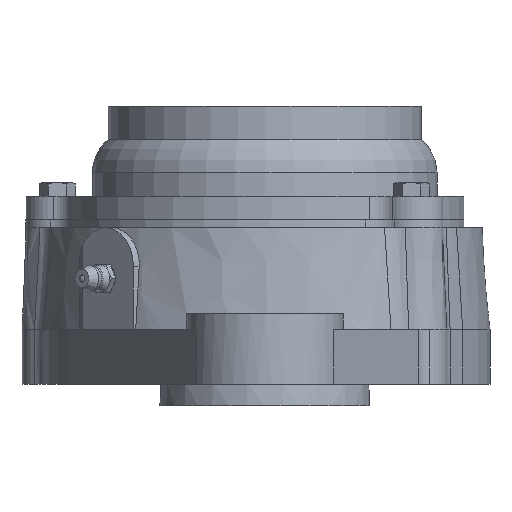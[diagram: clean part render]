
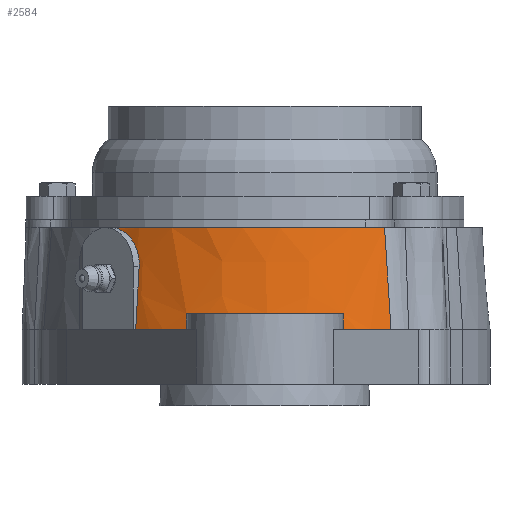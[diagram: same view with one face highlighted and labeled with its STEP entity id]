
A CAD part, left-side view. The second image highlights one B-rep face of the part: STEP entity #2584.
In plain terms, the highlighted free-form (B-spline) face has degree [3, 3] with [7, 4] control points.
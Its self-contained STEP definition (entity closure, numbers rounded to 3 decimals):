
#2420=CARTESIAN_POINT('',(-46.321,-30.571,18.));
#2421=VERTEX_POINT('',#2420);
#2432=CARTESIAN_POINT('',(-47.623,-32.222,-8.));
#2433=VERTEX_POINT('',#2432);
#2434=CARTESIAN_POINT('',(-46.321,-30.571,18.));
#2435=CARTESIAN_POINT('',(-46.763,-31.113,9.333));
#2436=CARTESIAN_POINT('',(-47.197,-31.663,0.666));
#2437=CARTESIAN_POINT('',(-47.623,-32.222,-8.));
#2438=B_SPLINE_CURVE_WITH_KNOTS('',3,(#2434,#2435,#2436,#2437),.UNSPECIFIED.,.F.,.U.,(4,4),(-2.609,0.),.UNSPECIFIED.);
#2439=EDGE_CURVE('',#2421,#2433,#2438,.T.);
#2463=CARTESIAN_POINT('',(-40.664,40.653,-8.));
#2464=CARTESIAN_POINT('',(-43.336,37.981,-8.));
#2465=CARTESIAN_POINT('',(-50.565,29.175,-8.0));
#2466=CARTESIAN_POINT('',(-57.907,11.366,-8.));
#2467=CARTESIAN_POINT('',(-57.827,-11.755,-8.0));
#2468=CARTESIAN_POINT('',(-51.859,-25.963,-8.));
#2469=CARTESIAN_POINT('',(-47.623,-32.222,-8.));
#2470=CARTESIAN_POINT('',(-40.187,40.187,0.667));
#2471=CARTESIAN_POINT('',(-42.829,37.545,0.667));
#2472=CARTESIAN_POINT('',(-49.978,28.839,0.667));
#2473=CARTESIAN_POINT('',(-57.238,11.23,0.667));
#2474=CARTESIAN_POINT('',(-57.155,-11.63,0.667));
#2475=CARTESIAN_POINT('',(-51.25,-25.677,0.667));
#2476=CARTESIAN_POINT('',(-47.061,-31.864,0.667));
#2477=CARTESIAN_POINT('',(-39.711,39.721,9.333));
#2478=CARTESIAN_POINT('',(-42.323,37.11,9.333));
#2479=CARTESIAN_POINT('',(-49.391,28.503,9.333));
#2480=CARTESIAN_POINT('',(-56.568,11.095,9.333));
#2481=CARTESIAN_POINT('',(-56.483,-11.506,9.333));
#2482=CARTESIAN_POINT('',(-50.642,-25.391,9.333));
#2483=CARTESIAN_POINT('',(-46.498,-31.506,9.333));
#2484=CARTESIAN_POINT('',(-39.234,39.255,18.0));
#2485=CARTESIAN_POINT('',(-41.816,36.674,18.0));
#2486=CARTESIAN_POINT('',(-48.804,28.168,18.));
#2487=CARTESIAN_POINT('',(-55.899,10.959,18.));
#2488=CARTESIAN_POINT('',(-55.812,-11.381,18.));
#2489=CARTESIAN_POINT('',(-50.033,-25.105,18.0));
#2490=CARTESIAN_POINT('',(-45.935,-31.149,18.0));
#2491=B_SPLINE_SURFACE_WITH_KNOTS('',3,3,((#2463,#2470,#2477,#2484),(#2464,#2471,#2478,#2485),(#2465,#2472,#2479,#2486),(#2466,#2473,#2480,#2487),(#2467,#2474,#2481,#2488),(#2468,#2475,#2482,#2489),(#2469,#2476,#2483,#2490)),.UNSPECIFIED.,.F.,.F.,.F.,(4,1,1,1,4),(4,4),(0.311,0.406,0.596,0.786,0.976),(0.0,1.0),.UNSPECIFIED.);
#2492=ORIENTED_EDGE('',*,*,#2439,.F.);
#2493=CARTESIAN_POINT('',(-39.244,39.244,18.0));
#2494=VERTEX_POINT('',#2493);
#2495=CARTESIAN_POINT('',(0.0,0.0,18.0));
#2496=DIRECTION('',(0.0,0.0,1.0));
#2497=DIRECTION('',(0.14,-0.99,0.0));
#2498=AXIS2_PLACEMENT_3D('',#2495,#2496,#2497);
#2499=CIRCLE('',#2498,55.5);
#2500=EDGE_CURVE('',#2494,#2421,#2499,.T.);
#2501=ORIENTED_EDGE('',*,*,#2500,.F.);
#2502=CARTESIAN_POINT('',(-46.226,32.084,8.));
#2503=VERTEX_POINT('',#2502);
#2504=CARTESIAN_POINT('',(-39.244,39.244,18.0));
#2505=CARTESIAN_POINT('',(-39.402,39.086,18.));
#2506=CARTESIAN_POINT('',(-39.56,38.928,17.993));
#2507=CARTESIAN_POINT('',(-39.989,38.493,17.951));
#2508=CARTESIAN_POINT('',(-40.259,38.216,17.903));
#2509=CARTESIAN_POINT('',(-41.033,37.412,17.695));
#2510=CARTESIAN_POINT('',(-41.524,36.891,17.478));
#2511=CARTESIAN_POINT('',(-42.77,35.546,16.687));
#2512=CARTESIAN_POINT('',(-43.469,34.767,15.981));
#2513=CARTESIAN_POINT('',(-44.683,33.424,14.188));
#2514=CARTESIAN_POINT('',(-45.18,32.882,13.105));
#2515=CARTESIAN_POINT('',(-45.912,32.174,10.708));
#2516=CARTESIAN_POINT('',(-46.138,32.019,9.42));
#2517=CARTESIAN_POINT('',(-46.222,32.08,8.078));
#2518=CARTESIAN_POINT('',(-46.224,32.082,8.039));
#2519=CARTESIAN_POINT('',(-46.226,32.084,8.));
#2520=B_SPLINE_CURVE_WITH_KNOTS('',3,(#2504,#2505,#2506,#2507,#2508,#2509,#2510,#2511,#2512,#2513,#2514,#2515,#2516,#2517,#2518,#2519),.UNSPECIFIED.,.F.,.U.,(4,2,2,2,2,2,2,4),(0.0,0.067,0.184,0.408,0.783,1.172,1.564,1.576),.UNSPECIFIED.);
#2521=EDGE_CURVE('',#2494,#2503,#2520,.T.);
#2522=ORIENTED_EDGE('',*,*,#2521,.T.);
#2523=CARTESIAN_POINT('',(-47.11,32.968,-8.));
#2524=VERTEX_POINT('',#2523);
#2525=CARTESIAN_POINT('',(-46.226,32.084,8.));
#2526=CARTESIAN_POINT('',(-46.521,32.379,2.667));
#2527=CARTESIAN_POINT('',(-46.816,32.673,-2.667));
#2528=CARTESIAN_POINT('',(-47.11,32.968,-8.));
#2529=B_SPLINE_CURVE_WITH_KNOTS('',3,(#2525,#2526,#2527,#2528),.UNSPECIFIED.,.F.,.U.,(4,4),(-1.605,0.0),.UNSPECIFIED.);
#2530=EDGE_CURVE('',#2503,#2524,#2529,.T.);
#2531=ORIENTED_EDGE('',*,*,#2530,.T.);
#2532=CARTESIAN_POINT('',(-53.91,20.,-8.));
#2533=VERTEX_POINT('',#2532);
#2534=CARTESIAN_POINT('',(-53.908,19.999,-8.));
#2535=CARTESIAN_POINT('',(-52.355,24.183,-8.));
#2536=CARTESIAN_POINT('',(-50.12,28.575,-8.0));
#2537=CARTESIAN_POINT('',(-47.359,32.616,-8.));
#2538=CARTESIAN_POINT('',(-47.112,32.969,-8.));
#2539=B_SPLINE_CURVE_WITH_KNOTS('',3,(#2534,#2535,#2536,#2537,#2538),.UNSPECIFIED.,.F.,.U.,(4,1,4),(-0.518,-0.406,-0.395),.UNSPECIFIED.);
#2540=EDGE_CURVE('',#2533,#2524,#2539,.T.);
#2541=ORIENTED_EDGE('',*,*,#2540,.F.);
#2542=CARTESIAN_POINT('',(-53.581,20.,-4.));
#2543=VERTEX_POINT('',#2542);
#2544=CARTESIAN_POINT('',(-53.581,20.,-4.));
#2545=CARTESIAN_POINT('',(-53.691,20.,-5.333));
#2546=CARTESIAN_POINT('',(-53.8,20.,-6.667));
#2547=CARTESIAN_POINT('',(-53.91,20.,-8.));
#2548=B_SPLINE_CURVE_WITH_KNOTS('',3,(#2544,#2545,#2546,#2547),.UNSPECIFIED.,.F.,.U.,(4,4),(0.05,0.452),.UNSPECIFIED.);
#2549=EDGE_CURVE('',#2543,#2533,#2548,.T.);
#2550=ORIENTED_EDGE('',*,*,#2549,.F.);
#2551=CARTESIAN_POINT('',(-53.581,-20.,-4.));
#2552=VERTEX_POINT('',#2551);
#2553=CARTESIAN_POINT('',(-53.579,-19.998,-4.));
#2554=CARTESIAN_POINT('',(-54.624,-17.201,-4.));
#2555=CARTESIAN_POINT('',(-55.451,-14.323,-4.));
#2556=CARTESIAN_POINT('',(-56.046,-11.397,-4.));
#2557=CARTESIAN_POINT('',(-57.544,-4.031,-4.));
#2558=CARTESIAN_POINT('',(-57.571,3.636,-4.));
#2559=CARTESIAN_POINT('',(-56.124,11.013,-4.));
#2560=CARTESIAN_POINT('',(-55.524,14.071,-4.));
#2561=CARTESIAN_POINT('',(-54.67,17.079,-4.));
#2562=CARTESIAN_POINT('',(-53.58,19.999,-4.));
#2563=B_SPLINE_CURVE_WITH_KNOTS('',3,(#2553,#2554,#2555,#2556,#2557,#2558,#2559,#2560,#2561,#2562),.UNSPECIFIED.,.F.,.U.,(4,3,3,4),(0.053,0.952,3.214,4.152),.UNSPECIFIED.);
#2564=EDGE_CURVE('',#2552,#2543,#2563,.T.);
#2565=ORIENTED_EDGE('',*,*,#2564,.F.);
#2566=CARTESIAN_POINT('',(-53.91,-20.,-8.));
#2567=VERTEX_POINT('',#2566);
#2568=CARTESIAN_POINT('',(-53.91,-20.0,-8.));
#2569=CARTESIAN_POINT('',(-53.8,-20.0,-6.667));
#2570=CARTESIAN_POINT('',(-53.691,-20.,-5.333));
#2571=CARTESIAN_POINT('',(-53.581,-20.,-4.));
#2572=B_SPLINE_CURVE_WITH_KNOTS('',3,(#2568,#2569,#2570,#2571),.UNSPECIFIED.,.F.,.U.,(4,4),(0.0,0.401),.UNSPECIFIED.);
#2573=EDGE_CURVE('',#2567,#2552,#2572,.T.);
#2574=ORIENTED_EDGE('',*,*,#2573,.F.);
#2575=CARTESIAN_POINT('',(-47.623,-32.222,-8.));
#2576=CARTESIAN_POINT('',(-50.197,-28.419,-8.));
#2577=CARTESIAN_POINT('',(-52.308,-24.304,-8.));
#2578=CARTESIAN_POINT('',(-53.907,-19.999,-8.));
#2579=B_SPLINE_CURVE_WITH_KNOTS('',3,(#2575,#2576,#2577,#2578),.UNSPECIFIED.,.F.,.U.,(4,4),(-0.976,-0.861),.UNSPECIFIED.);
#2580=EDGE_CURVE('',#2433,#2567,#2579,.T.);
#2581=ORIENTED_EDGE('',*,*,#2580,.F.);
#2582=EDGE_LOOP('',(#2492,#2501,#2522,#2531,#2541,#2550,#2565,#2574,#2581));
#2583=FACE_OUTER_BOUND('',#2582,.T.);
#2584=ADVANCED_FACE('',(#2583),#2491,.T.);
